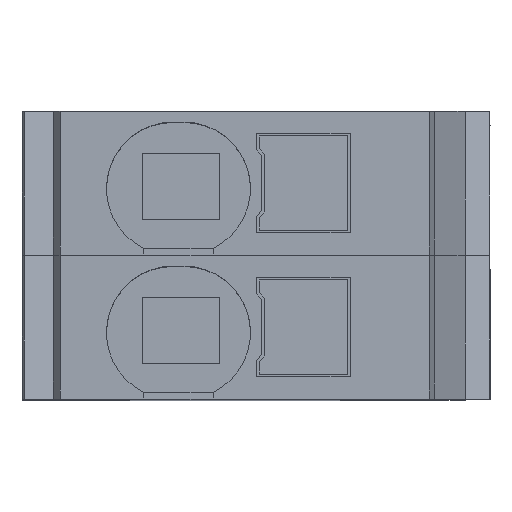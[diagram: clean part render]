
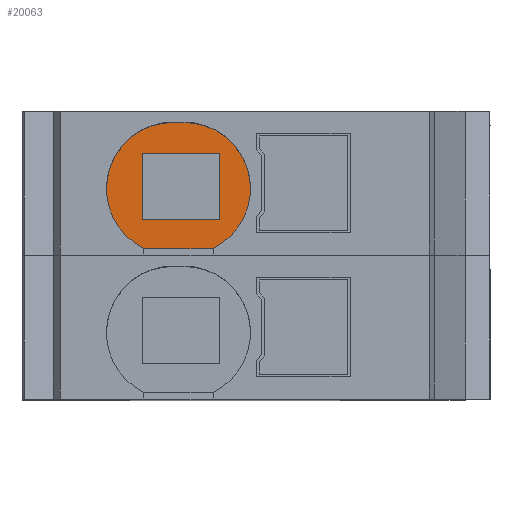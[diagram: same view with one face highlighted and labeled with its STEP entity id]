
A CAD part, top view. The second image highlights one B-rep face of the part: STEP entity #20063.
In plain terms, the highlighted planar face has unit normal (0, 0, 1).
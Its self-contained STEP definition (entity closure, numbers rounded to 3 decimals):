
#20063 = ADVANCED_FACE('',(#20064,#20135),#20078,.T.);
#20064 = FACE_BOUND('',#20065,.T.);
#20065 = EDGE_LOOP('',(#20066,#20089,#20105,#20121));
#20066 = ORIENTED_EDGE('',*,*,#20067,.F.);
#20067 = EDGE_CURVE('',#20068,#20070,#20072,.T.);
#20068 = VERTEX_POINT('',#20069);
#20069 = CARTESIAN_POINT('',(0.45,3.7,30.6
    ));
#20070 = VERTEX_POINT('',#20071);
#20071 = CARTESIAN_POINT('',(0.45,1.3,30.6
    ));
#20072 = SURFACE_CURVE('',#20073,(#20077),.PCURVE_S1.);
#20073 = LINE('',#20074,#20075);
#20074 = CARTESIAN_POINT('',(0.45,3.7,30.6
    ));
#20075 = VECTOR('',#20076,1.);
#20076 = DIRECTION('',(0.,-1.,0.));
#20077 = PCURVE('',#20078,#20083);
#20078 = PLANE('',#20079);
#20079 = AXIS2_PLACEMENT_3D('',#20080,#20081,#20082);
#20080 = CARTESIAN_POINT('',(1.95,2.4,30.6));
#20081 = DIRECTION('',(0.,0.,1.));
#20082 = DIRECTION('',(0.,-1.,0.));
#20083 = DEFINITIONAL_REPRESENTATION('',(#20084),#20088);
#20084 = LINE('',#20085,#20086);
#20085 = CARTESIAN_POINT('',(-1.3,-1.5));
#20086 = VECTOR('',#20087,1.);
#20087 = DIRECTION('',(1.,0.));
#20088 = ( GEOMETRIC_REPRESENTATION_CONTEXT(2) 
PARAMETRIC_REPRESENTATION_CONTEXT() REPRESENTATION_CONTEXT('2D SPACE',''
  ) );
#20089 = ORIENTED_EDGE('',*,*,#20090,.F.);
#20090 = EDGE_CURVE('',#20091,#20068,#20093,.T.);
#20091 = VERTEX_POINT('',#20092);
#20092 = CARTESIAN_POINT('',(3.25,3.7,30.6
    ));
#20093 = SURFACE_CURVE('',#20094,(#20098),.PCURVE_S1.);
#20094 = LINE('',#20095,#20096);
#20095 = CARTESIAN_POINT('',(3.25,3.7,30.6
    ));
#20096 = VECTOR('',#20097,1.);
#20097 = DIRECTION('',(-1.,0.,0.));
#20098 = PCURVE('',#20078,#20099);
#20099 = DEFINITIONAL_REPRESENTATION('',(#20100),#20104);
#20100 = LINE('',#20101,#20102);
#20101 = CARTESIAN_POINT('',(-1.3,1.3));
#20102 = VECTOR('',#20103,1.);
#20103 = DIRECTION('',(0.,-1.));
#20104 = ( GEOMETRIC_REPRESENTATION_CONTEXT(2) 
PARAMETRIC_REPRESENTATION_CONTEXT() REPRESENTATION_CONTEXT('2D SPACE',''
  ) );
#20105 = ORIENTED_EDGE('',*,*,#20106,.F.);
#20106 = EDGE_CURVE('',#20107,#20091,#20109,.T.);
#20107 = VERTEX_POINT('',#20108);
#20108 = CARTESIAN_POINT('',(3.25,1.3,30.6
    ));
#20109 = SURFACE_CURVE('',#20110,(#20114),.PCURVE_S1.);
#20110 = LINE('',#20111,#20112);
#20111 = CARTESIAN_POINT('',(3.25,1.3,30.6
    ));
#20112 = VECTOR('',#20113,1.);
#20113 = DIRECTION('',(0.,1.,0.));
#20114 = PCURVE('',#20078,#20115);
#20115 = DEFINITIONAL_REPRESENTATION('',(#20116),#20120);
#20116 = LINE('',#20117,#20118);
#20117 = CARTESIAN_POINT('',(1.1,1.3));
#20118 = VECTOR('',#20119,1.);
#20119 = DIRECTION('',(-1.,0.));
#20120 = ( GEOMETRIC_REPRESENTATION_CONTEXT(2) 
PARAMETRIC_REPRESENTATION_CONTEXT() REPRESENTATION_CONTEXT('2D SPACE',''
  ) );
#20121 = ORIENTED_EDGE('',*,*,#20122,.F.);
#20122 = EDGE_CURVE('',#20070,#20107,#20123,.T.);
#20123 = SURFACE_CURVE('',#20124,(#20128),.PCURVE_S1.);
#20124 = LINE('',#20125,#20126);
#20125 = CARTESIAN_POINT('',(0.45,1.3,30.6
    ));
#20126 = VECTOR('',#20127,1.);
#20127 = DIRECTION('',(1.,0.,0.));
#20128 = PCURVE('',#20078,#20129);
#20129 = DEFINITIONAL_REPRESENTATION('',(#20130),#20134);
#20130 = LINE('',#20131,#20132);
#20131 = CARTESIAN_POINT('',(1.1,-1.5));
#20132 = VECTOR('',#20133,1.);
#20133 = DIRECTION('',(0.,1.));
#20134 = ( GEOMETRIC_REPRESENTATION_CONTEXT(2) 
PARAMETRIC_REPRESENTATION_CONTEXT() REPRESENTATION_CONTEXT('2D SPACE',''
  ) );
#20135 = FACE_BOUND('',#20136,.T.);
#20136 = EDGE_LOOP('',(#20137,#20155,#20176,#20192));
#20137 = ORIENTED_EDGE('',*,*,#20138,.F.);
#20138 = EDGE_CURVE('',#20139,#20141,#20143,.T.);
#20139 = VERTEX_POINT('',#20140);
#20140 = CARTESIAN_POINT('',(3.,0.242,
    30.6));
#20141 = VERTEX_POINT('',#20142);
#20142 = CARTESIAN_POINT('',(0.5,0.242,30.6
    ));
#20143 = SURFACE_CURVE('',#20144,(#20148),.PCURVE_S1.);
#20144 = LINE('',#20145,#20146);
#20145 = CARTESIAN_POINT('',(3.,0.242,
    30.6));
#20146 = VECTOR('',#20147,1.);
#20147 = DIRECTION('',(-1.,0.,0.));
#20148 = PCURVE('',#20078,#20149);
#20149 = DEFINITIONAL_REPRESENTATION('',(#20150),#20154);
#20150 = LINE('',#20151,#20152);
#20151 = CARTESIAN_POINT('',(2.158,1.05));
#20152 = VECTOR('',#20153,1.);
#20153 = DIRECTION('',(0.,-1.));
#20154 = ( GEOMETRIC_REPRESENTATION_CONTEXT(2) 
PARAMETRIC_REPRESENTATION_CONTEXT() REPRESENTATION_CONTEXT('2D SPACE',''
  ) );
#20155 = ORIENTED_EDGE('',*,*,#20156,.F.);
#20156 = EDGE_CURVE('',#20157,#20139,#20159,.T.);
#20157 = VERTEX_POINT('',#20158);
#20158 = CARTESIAN_POINT('',(1.95,4.8,30.6));
#20159 = SURFACE_CURVE('',#20160,(#20165),.PCURVE_S1.);
#20160 = CIRCLE('',#20161,2.4);
#20161 = AXIS2_PLACEMENT_3D('',#20162,#20163,#20164);
#20162 = CARTESIAN_POINT('',(1.95,2.4,30.6));
#20163 = DIRECTION('',(0.,0.,-1.));
#20164 = DIRECTION('',(1.,0.,0.));
#20165 = PCURVE('',#20078,#20166);
#20166 = DEFINITIONAL_REPRESENTATION('',(#20167),#20175);
#20167 = ( BOUNDED_CURVE() B_SPLINE_CURVE(2,(#20168,#20169,#20170,#20171
    ,#20172,#20173,#20174),.UNSPECIFIED.,.F.,.F.) 
B_SPLINE_CURVE_WITH_KNOTS((1,2,2,2,2,1),(-2.094,0.,
    2.094,4.189,6.283,8.378),
.UNSPECIFIED.) CURVE() GEOMETRIC_REPRESENTATION_ITEM() 
RATIONAL_B_SPLINE_CURVE((1.,0.5,1.,0.5,1.,0.5,1.)) REPRESENTATION_ITEM(
  '') );
#20168 = CARTESIAN_POINT('',(0.,2.4));
#20169 = CARTESIAN_POINT('',(4.157,2.4));
#20170 = CARTESIAN_POINT('',(2.078,-1.2));
#20171 = CARTESIAN_POINT('',(0.,-4.8));
#20172 = CARTESIAN_POINT('',(-2.078,-1.2));
#20173 = CARTESIAN_POINT('',(-4.157,2.4));
#20174 = CARTESIAN_POINT('',(0.,2.4));
#20175 = ( GEOMETRIC_REPRESENTATION_CONTEXT(2) 
PARAMETRIC_REPRESENTATION_CONTEXT() REPRESENTATION_CONTEXT('2D SPACE',''
  ) );
#20176 = ORIENTED_EDGE('',*,*,#20177,.F.);
#20177 = EDGE_CURVE('',#20178,#20157,#20180,.T.);
#20178 = VERTEX_POINT('',#20179);
#20179 = CARTESIAN_POINT('',(1.55,4.8,30.6));
#20180 = SURFACE_CURVE('',#20181,(#20185),.PCURVE_S1.);
#20181 = LINE('',#20182,#20183);
#20182 = CARTESIAN_POINT('',(1.95,4.8,30.6));
#20183 = VECTOR('',#20184,1.);
#20184 = DIRECTION('',(1.,0.,0.));
#20185 = PCURVE('',#20078,#20186);
#20186 = DEFINITIONAL_REPRESENTATION('',(#20187),#20191);
#20187 = LINE('',#20188,#20189);
#20188 = CARTESIAN_POINT('',(-2.4,0.));
#20189 = VECTOR('',#20190,1.);
#20190 = DIRECTION('',(0.,1.));
#20191 = ( GEOMETRIC_REPRESENTATION_CONTEXT(2) 
PARAMETRIC_REPRESENTATION_CONTEXT() REPRESENTATION_CONTEXT('2D SPACE',''
  ) );
#20192 = ORIENTED_EDGE('',*,*,#20193,.F.);
#20193 = EDGE_CURVE('',#20141,#20178,#20194,.T.);
#20194 = SURFACE_CURVE('',#20195,(#20200),.PCURVE_S1.);
#20195 = CIRCLE('',#20196,2.4);
#20196 = AXIS2_PLACEMENT_3D('',#20197,#20198,#20199);
#20197 = CARTESIAN_POINT('',(1.55,2.4,
    30.6));
#20198 = DIRECTION('',(0.,0.,-1.));
#20199 = DIRECTION('',(1.,0.,0.));
#20200 = PCURVE('',#20078,#20201);
#20201 = DEFINITIONAL_REPRESENTATION('',(#20202),#20210);
#20202 = ( BOUNDED_CURVE() B_SPLINE_CURVE(2,(#20203,#20204,#20205,#20206
    ,#20207,#20208,#20209),.UNSPECIFIED.,.F.,.F.) 
B_SPLINE_CURVE_WITH_KNOTS((1,2,2,2,2,1),(-2.094,0.,
    2.094,4.189,6.283,8.378),
.UNSPECIFIED.) CURVE() GEOMETRIC_REPRESENTATION_ITEM() 
RATIONAL_B_SPLINE_CURVE((1.,0.5,1.,0.5,1.,0.5,1.)) REPRESENTATION_ITEM(
  '') );
#20203 = CARTESIAN_POINT('',(0.,2.));
#20204 = CARTESIAN_POINT('',(4.157,2.));
#20205 = CARTESIAN_POINT('',(2.078,-1.6));
#20206 = CARTESIAN_POINT('',(0.,-5.2));
#20207 = CARTESIAN_POINT('',(-2.078,-1.6));
#20208 = CARTESIAN_POINT('',(-4.157,2.));
#20209 = CARTESIAN_POINT('',(0.,2.));
#20210 = ( GEOMETRIC_REPRESENTATION_CONTEXT(2) 
PARAMETRIC_REPRESENTATION_CONTEXT() REPRESENTATION_CONTEXT('2D SPACE',''
  ) );
